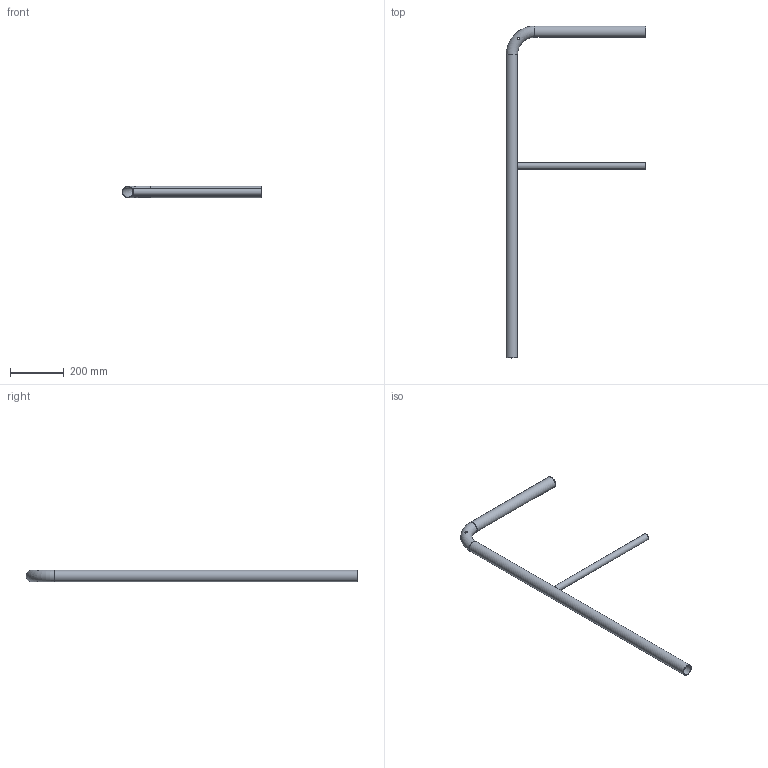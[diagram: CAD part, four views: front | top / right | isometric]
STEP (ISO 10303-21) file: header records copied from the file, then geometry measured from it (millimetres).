
FILE_DESCRIPTION((''),'2;1');
FILE_NAME('S:\Användarkataloger\AndreasA\Mina Inventor filer\Räcken\STEP\ändräcke_smodul_500_1216.stp','2010-09-07T13:42:10',('AndreasA'),(''),'Autodesk Inventor 2011','Autodesk Inventor 2011','');
FILE_SCHEMA(('AUTOMOTIVE_DESIGN { 1 0 10303 214 1 1 1 1 }'));
Length unit declared in the file: millimetre
Products named in the file (3): ändräcke_smodul_500_1216; hledare_ändräcke_smodul_500-1216; mellanliggare_stormodul_479
Assembly tree (2 placements, depth 2):
  ändräcke_smodul_500_1216
    hledare_ändräcke_smodul_500-1216
    mellanliggare_stormodul_479
Bounding box: 521.2 x 1237.2 x 42.4 mm (x, y, z)
Volume: 495042.2 mm3; surface area: 495967.3 mm2
Topology: 2 solids, 2 shells, 14 faces, 26 edges, 16 vertices
Faces by surface type: cylinder 8, plane 4, torus 2
Full cylindrical faces by diameter (mm): 10 x2, 21 x1, 25 x1, 38.4 x2, 42.4 x2
Entity records: 616 total; most frequent: CARTESIAN_POINT 277, DIRECTION 62, ORIENTED_EDGE 32, EDGE_LOOP 32, AXIS2_PLACEMENT_3D 31, FACE_BOUND 18, VERTEX_POINT 16, EDGE_CURVE 16
